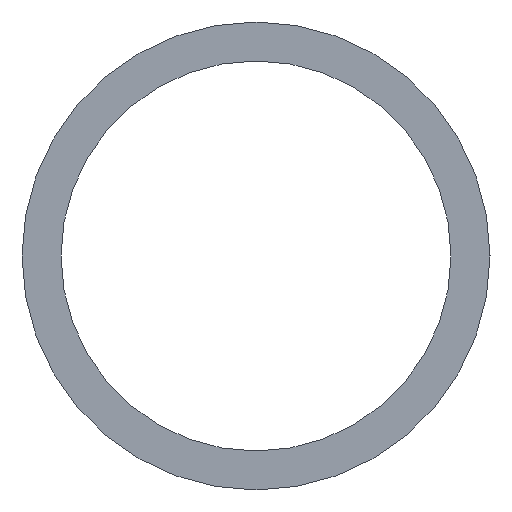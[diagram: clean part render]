
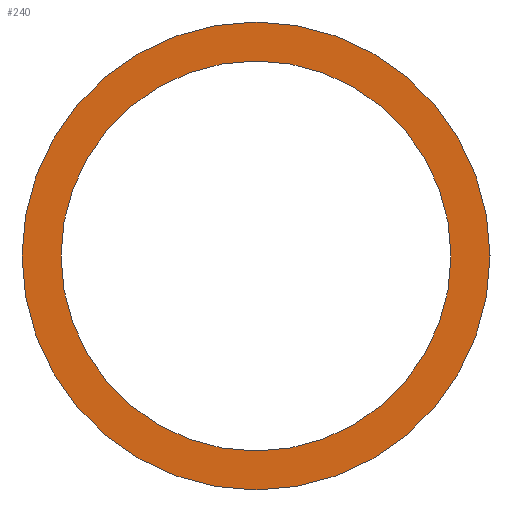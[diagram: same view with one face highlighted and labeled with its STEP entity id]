
A CAD part, left-side view. The second image highlights one B-rep face of the part: STEP entity #240.
In plain terms, the highlighted planar face has unit normal (-1, 0, 0).
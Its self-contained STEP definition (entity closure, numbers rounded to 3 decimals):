
#7 = VERTEX_POINT ( 'NONE', #200 ) ;
#9 = VERTEX_POINT ( 'NONE', #239 ) ;
#31 = FACE_OUTER_BOUND ( 'NONE', #58, .T. ) ;
#38 = VERTEX_POINT ( 'NONE', #203 ) ;
#44 = ORIENTED_EDGE ( 'NONE', *, *, #151, .T. ) ;
#58 = EDGE_LOOP ( 'NONE', ( #77, #79 ) ) ;
#68 = EDGE_LOOP ( 'NONE', ( #72, #44 ) ) ;
#72 = ORIENTED_EDGE ( 'NONE', *, *, #122, .T. ) ;
#74 = VERTEX_POINT ( 'NONE', #216 ) ;
#77 = ORIENTED_EDGE ( 'NONE', *, *, #141, .F. ) ;
#79 = ORIENTED_EDGE ( 'NONE', *, *, #154, .F. ) ;
#80 = CIRCLE ( 'NONE', #115, 7.5 ) ;
#86 = CIRCLE ( 'NONE', #142, 9. ) ;
#90 = CIRCLE ( 'NONE', #139, 7.5 ) ;
#103 = CIRCLE ( 'NONE', #140, 9. ) ;
#105 = FACE_BOUND ( 'NONE', #68, .T. ) ;
#115 = AXIS2_PLACEMENT_3D ( 'NONE', #226, #219, #194 ) ;
#122 = EDGE_CURVE ( 'NONE', #9, #38, #80, .T. ) ;
#139 = AXIS2_PLACEMENT_3D ( 'NONE', #224, #237, #157 ) ;
#140 = AXIS2_PLACEMENT_3D ( 'NONE', #166, #165, #205 ) ;
#141 = EDGE_CURVE ( 'NONE', #7, #74, #86, .T. ) ;
#142 = AXIS2_PLACEMENT_3D ( 'NONE', #208, #229, #223 ) ;
#145 = AXIS2_PLACEMENT_3D ( 'NONE', #210, #206, #227 ) ;
#151 = EDGE_CURVE ( 'NONE', #38, #9, #90, .T. ) ;
#154 = EDGE_CURVE ( 'NONE', #74, #7, #103, .T. ) ;
#157 = DIRECTION ( 'NONE',  ( 0., 0., -1. ) ) ;
#165 = DIRECTION ( 'NONE',  ( 1., 0., 0. ) ) ;
#166 = CARTESIAN_POINT ( 'NONE',  ( -50., 0., 0. ) ) ;
#194 = DIRECTION ( 'NONE',  ( 0., 0., -1. ) ) ;
#198 = PLANE ( 'NONE',  #145 ) ;
#200 = CARTESIAN_POINT ( 'NONE',  ( -50., 0., 9. ) ) ;
#203 = CARTESIAN_POINT ( 'NONE',  ( -50., 0., -7.5 ) ) ;
#205 = DIRECTION ( 'NONE',  ( 0., 0., -1. ) ) ;
#206 = DIRECTION ( 'NONE',  ( 1., 0., 0. ) ) ;
#208 = CARTESIAN_POINT ( 'NONE',  ( -50., 0., 0. ) ) ;
#210 = CARTESIAN_POINT ( 'NONE',  ( -50., 0., 0. ) ) ;
#216 = CARTESIAN_POINT ( 'NONE',  ( -50., 0., -9. ) ) ;
#219 = DIRECTION ( 'NONE',  ( 1., 0., 0. ) ) ;
#223 = DIRECTION ( 'NONE',  ( 0., 0., -1. ) ) ;
#224 = CARTESIAN_POINT ( 'NONE',  ( -50., 0., 0. ) ) ;
#226 = CARTESIAN_POINT ( 'NONE',  ( -50., 0., 0. ) ) ;
#227 = DIRECTION ( 'NONE',  ( 0., 0., -1. ) ) ;
#229 = DIRECTION ( 'NONE',  ( 1., 0., 0. ) ) ;
#237 = DIRECTION ( 'NONE',  ( 1., 0., 0. ) ) ;
#239 = CARTESIAN_POINT ( 'NONE',  ( -50., 0., 7.5 ) ) ;
#240 = ADVANCED_FACE ( 'NONE', ( #105, #31 ), #198, .F. ) ;
